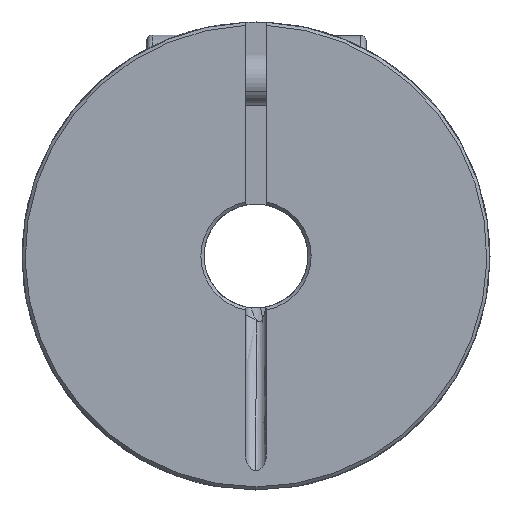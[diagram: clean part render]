
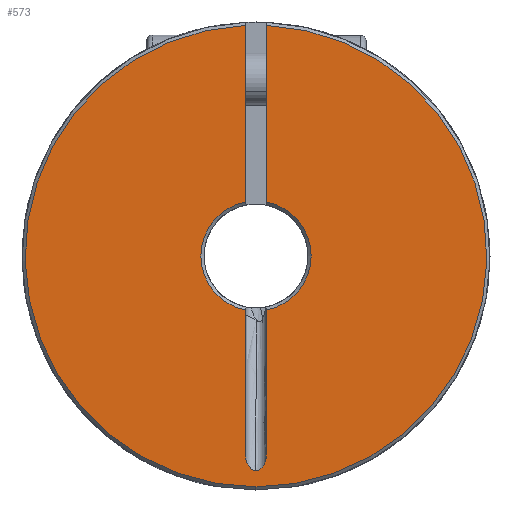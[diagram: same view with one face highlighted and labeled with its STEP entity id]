
A CAD part, left-side view. The second image highlights one B-rep face of the part: STEP entity #573.
In plain terms, the highlighted planar face has unit normal (-1, 0, 0).
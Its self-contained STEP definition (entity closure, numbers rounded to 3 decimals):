
#28 = ORIENTED_EDGE ( 'NONE', *, *, #246, .T. ) ;
#138 = EDGE_CURVE ( 'NONE', #227, #2112, #1208, .T. ) ;
#183 = ORIENTED_EDGE ( 'NONE', *, *, #138, .T. ) ;
#191 = VERTEX_POINT ( 'NONE', #1515 ) ;
#227 = VERTEX_POINT ( 'NONE', #2049 ) ;
#246 = EDGE_CURVE ( 'NONE', #3329, #227, #2213, .T. ) ;
#280 = ORIENTED_EDGE ( 'NONE', *, *, #5915, .T. ) ;
#318 = ORIENTED_EDGE ( 'NONE', *, *, #5452, .F. ) ;
#343 = VERTEX_POINT ( 'NONE', #3033 ) ;
#378 = ORIENTED_EDGE ( 'NONE', *, *, #3145, .T. ) ;
#515 = ORIENTED_EDGE ( 'NONE', *, *, #5863, .F. ) ;
#545 = EDGE_LOOP ( 'NONE', ( #515, #28, #183, #1617, #5469, #5362, #4041, #378, #318, #280 ) ) ;
#573 = ADVANCED_FACE ( 'NONE', ( #4465 ), #4466, .F. ) ;
#738 = CARTESIAN_POINT ( 'NONE',  ( 0., 1., 22.177 ) ) ;
#829 = LINE ( 'NONE', #830, #831 ) ;
#830 = CARTESIAN_POINT ( 'NONE',  ( 0., 1., 0. ) ) ;
#831 = VECTOR ( 'NONE', #832, 1000. ) ;
#832 = DIRECTION ( 'NONE',  ( 0., 0., 1. ) ) ;
#1039 = VERTEX_POINT ( 'NONE', #4725 ) ;
#1208 = B_SPLINE_CURVE_WITH_KNOTS ( 'NONE', 3,
 ( #1209, #1210, #1211, #1212, #1213, #1214, #1215, #1216, #1217, #1218 ),
 .UNSPECIFIED., .F., .F.,
 ( 4, 2, 2, 2, 4 ),
 ( 0., 0., 0.001, 0.001, 0.002 ),
 .UNSPECIFIED. ) ;
#1209 = CARTESIAN_POINT ( 'NONE',  ( 0., 0., -20.63 ) ) ;
#1210 = CARTESIAN_POINT ( 'NONE',  ( 0., 0.168, -20.63 ) ) ;
#1211 = CARTESIAN_POINT ( 'NONE',  ( 0., 0.328, -20.565 ) ) ;
#1212 = CARTESIAN_POINT ( 'NONE',  ( 0., 0.593, -20.361 ) ) ;
#1213 = CARTESIAN_POINT ( 'NONE',  ( 0., 0.696, -20.227 ) ) ;
#1214 = CARTESIAN_POINT ( 'NONE',  ( 0., 0.854, -19.936 ) ) ;
#1215 = CARTESIAN_POINT ( 'NONE',  ( 0., 0.909, -19.779 ) ) ;
#1216 = CARTESIAN_POINT ( 'NONE',  ( 0., 0.983, -19.456 ) ) ;
#1217 = CARTESIAN_POINT ( 'NONE',  ( 0., 1., -19.291 ) ) ;
#1218 = CARTESIAN_POINT ( 'NONE',  ( 0., 1., -19.125 ) ) ;
#1234 = CARTESIAN_POINT ( 'NONE',  ( 0., -1., 22.177 ) ) ;
#1256 = EDGE_CURVE ( 'NONE', #2112, #1039, #4837, .T. ) ;
#1515 = CARTESIAN_POINT ( 'NONE',  ( 0., 0., -22.2 ) ) ;
#1617 = ORIENTED_EDGE ( 'NONE', *, *, #1256, .T. ) ;
#2049 = CARTESIAN_POINT ( 'NONE',  ( 0., 0., -20.63 ) ) ;
#2112 = VERTEX_POINT ( 'NONE', #2335 ) ;
#2213 = B_SPLINE_CURVE_WITH_KNOTS ( 'NONE', 3,
 ( #2214, #2215, #2216, #2217, #2218, #2219, #2220, #2222, #2223, #2224 ),
 .UNSPECIFIED., .F., .F.,
 ( 4, 2, 2, 2, 4 ),
 ( 0., 0., 0.001, 0.001, 0.002 ),
 .UNSPECIFIED. ) ;
#2214 = CARTESIAN_POINT ( 'NONE',  ( 0., -1., -19.125 ) ) ;
#2215 = CARTESIAN_POINT ( 'NONE',  ( 0., -1., -19.291 ) ) ;
#2216 = CARTESIAN_POINT ( 'NONE',  ( 0., -0.983, -19.455 ) ) ;
#2217 = CARTESIAN_POINT ( 'NONE',  ( 0., -0.91, -19.775 ) ) ;
#2218 = CARTESIAN_POINT ( 'NONE',  ( 0., -0.854, -19.935 ) ) ;
#2219 = CARTESIAN_POINT ( 'NONE',  ( 0., -0.697, -20.225 ) ) ;
#2220 = CARTESIAN_POINT ( 'NONE',  ( 0., -0.593, -20.36 ) ) ;
#2222 = CARTESIAN_POINT ( 'NONE',  ( 0., -0.33, -20.564 ) ) ;
#2223 = CARTESIAN_POINT ( 'NONE',  ( 0., -0.168, -20.63 ) ) ;
#2224 = CARTESIAN_POINT ( 'NONE',  ( 0., 0., -20.63 ) ) ;
#2335 = CARTESIAN_POINT ( 'NONE',  ( 0., 1., -19.125 ) ) ;
#2500 = CARTESIAN_POINT ( 'NONE',  ( 0., -1., 5.205 ) ) ;
#3033 = CARTESIAN_POINT ( 'NONE',  ( 0., -1., -5.205 ) ) ;
#3145 = EDGE_CURVE ( 'NONE', #191, #5173, #3214, .T. ) ;
#3214 = CIRCLE ( 'NONE', #3215, 22.2 ) ;
#3215 = AXIS2_PLACEMENT_3D ( 'NONE', #3216, #3218, #3219 ) ;
#3216 = CARTESIAN_POINT ( 'NONE',  ( 0., 0., 0. ) ) ;
#3218 = DIRECTION ( 'NONE',  ( -1., 0., 0. ) ) ;
#3219 = DIRECTION ( 'NONE',  ( 0., 0., -1. ) ) ;
#3274 = CARTESIAN_POINT ( 'NONE',  ( 0., 1., 5.205 ) ) ;
#3302 = LINE ( 'NONE', #3303, #3304 ) ;
#3303 = CARTESIAN_POINT ( 'NONE',  ( 0., -1., 0. ) ) ;
#3304 = VECTOR ( 'NONE', #3305, 1000. ) ;
#3305 = DIRECTION ( 'NONE',  ( 0., 0., 1. ) ) ;
#3329 = VERTEX_POINT ( 'NONE', #3381 ) ;
#3381 = CARTESIAN_POINT ( 'NONE',  ( 0., -1., -19.125 ) ) ;
#3531 = CIRCLE ( 'NONE', #3532, 5.3 ) ;
#3532 = AXIS2_PLACEMENT_3D ( 'NONE', #3533, #3534, #3535 ) ;
#3533 = CARTESIAN_POINT ( 'NONE',  ( 0., 0., 0. ) ) ;
#3534 = DIRECTION ( 'NONE',  ( 1., 0., 0. ) ) ;
#3535 = DIRECTION ( 'NONE',  ( 0., 0., -1. ) ) ;
#3668 = CIRCLE ( 'NONE', #3669, 22.2 ) ;
#3669 = AXIS2_PLACEMENT_3D ( 'NONE', #3670, #3671, #3672 ) ;
#3670 = CARTESIAN_POINT ( 'NONE',  ( 0., 0., 0. ) ) ;
#3671 = DIRECTION ( 'NONE',  ( -1., 0., 0. ) ) ;
#3672 = DIRECTION ( 'NONE',  ( 0., 0., -1. ) ) ;
#3683 = EDGE_CURVE ( 'NONE', #4543, #191, #3668, .T. ) ;
#3713 = LINE ( 'NONE', #3714, #3715 ) ;
#3714 = CARTESIAN_POINT ( 'NONE',  ( 0., -1., 0. ) ) ;
#3715 = VECTOR ( 'NONE', #3716, 1000. ) ;
#3716 = DIRECTION ( 'NONE',  ( 0., 0., 1. ) ) ;
#3718 = CIRCLE ( 'NONE', #3719, 5.3 ) ;
#3719 = AXIS2_PLACEMENT_3D ( 'NONE', #3720, #3724, #3725 ) ;
#3720 = CARTESIAN_POINT ( 'NONE',  ( 0., 0., 0. ) ) ;
#3724 = DIRECTION ( 'NONE',  ( 1., 0., 0. ) ) ;
#3725 = DIRECTION ( 'NONE',  ( 0., 0., -1. ) ) ;
#4041 = ORIENTED_EDGE ( 'NONE', *, *, #3683, .T. ) ;
#4465 = FACE_OUTER_BOUND ( 'NONE', #545, .T. ) ;
#4466 = PLANE ( 'NONE',  #4467 ) ;
#4467 = AXIS2_PLACEMENT_3D ( 'NONE', #4468, #4469, #4470 ) ;
#4468 = CARTESIAN_POINT ( 'NONE',  ( 0., 5., 0. ) ) ;
#4469 = DIRECTION ( 'NONE',  ( 1., 0., 0. ) ) ;
#4470 = DIRECTION ( 'NONE',  ( 0., 0., -1. ) ) ;
#4543 = VERTEX_POINT ( 'NONE', #738 ) ;
#4725 = CARTESIAN_POINT ( 'NONE',  ( 0., 1., -5.205 ) ) ;
#4759 = EDGE_CURVE ( 'NONE', #5406, #4543, #829, .T. ) ;
#4837 = LINE ( 'NONE', #4838, #4839 ) ;
#4838 = CARTESIAN_POINT ( 'NONE',  ( 0., 1., 0. ) ) ;
#4839 = VECTOR ( 'NONE', #4840, 1000. ) ;
#4840 = DIRECTION ( 'NONE',  ( 0., 0., 1. ) ) ;
#5173 = VERTEX_POINT ( 'NONE', #1234 ) ;
#5313 = VERTEX_POINT ( 'NONE', #2500 ) ;
#5362 = ORIENTED_EDGE ( 'NONE', *, *, #4759, .T. ) ;
#5406 = VERTEX_POINT ( 'NONE', #3274 ) ;
#5427 = EDGE_CURVE ( 'NONE', #1039, #5406, #3531, .T. ) ;
#5452 = EDGE_CURVE ( 'NONE', #5313, #5173, #3713, .T. ) ;
#5469 = ORIENTED_EDGE ( 'NONE', *, *, #5427, .T. ) ;
#5863 = EDGE_CURVE ( 'NONE', #3329, #343, #3302, .T. ) ;
#5915 = EDGE_CURVE ( 'NONE', #5313, #343, #3718, .T. ) ;
